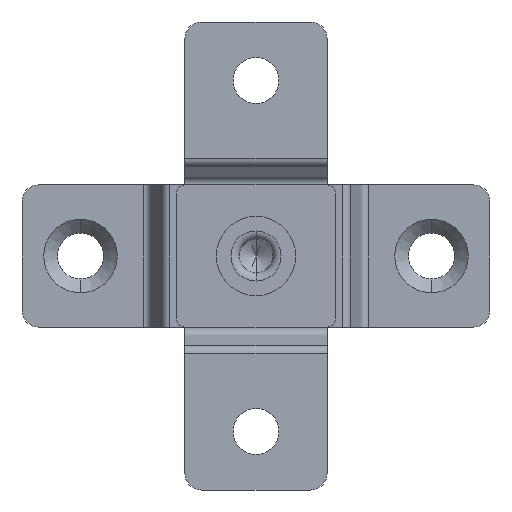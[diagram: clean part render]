
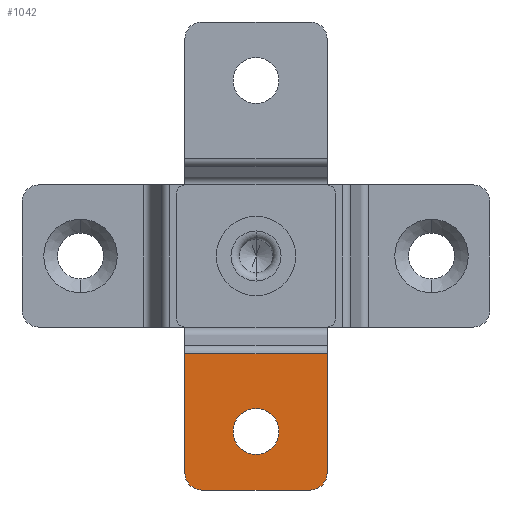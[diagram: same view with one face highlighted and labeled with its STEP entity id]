
A CAD part, front view. The second image highlights one B-rep face of the part: STEP entity #1042.
In plain terms, the highlighted planar face has unit normal (0, -1, 0) as drawn and (0, 1, 0) by its records, which use the part's own axes.
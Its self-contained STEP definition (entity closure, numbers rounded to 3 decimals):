
#59 = EDGE_CURVE ( 'NONE', #679, #2616, #628, .T. ) ;
#69 = AXIS2_PLACEMENT_3D ( 'NONE', #560, #3537, #864 ) ;
#125 = VERTEX_POINT ( 'NONE', #1061 ) ;
#248 = VECTOR ( 'NONE', #2091, 1000. ) ;
#250 = CARTESIAN_POINT ( 'NONE',  ( 21., 35.253, 0. ) ) ;
#316 = CARTESIAN_POINT ( 'NONE',  ( 28., 35.253, 8.5 ) ) ;
#389 = VERTEX_POINT ( 'NONE', #2499 ) ;
#464 = CARTESIAN_POINT ( 'NONE',  ( 28., 35.253, -8.5 ) ) ;
#484 = LINE ( 'NONE', #464, #3081 ) ;
#541 = DIRECTION ( 'NONE',  ( 0., 0., -1. ) ) ;
#560 = CARTESIAN_POINT ( 'NONE',  ( 26., 35.253, -6.5 ) ) ;
#563 = FACE_BOUND ( 'NONE', #697, .T. ) ;
#628 = CIRCLE ( 'NONE', #2304, 2. ) ;
#679 = VERTEX_POINT ( 'NONE', #1352 ) ;
#697 = EDGE_LOOP ( 'NONE', ( #1491, #2552 ) ) ;
#769 = EDGE_LOOP ( 'NONE', ( #2339, #3511, #2471, #2643, #2170, #1375 ) ) ;
#805 = DIRECTION ( 'NONE',  ( 0., 0., 1. ) ) ;
#816 = LINE ( 'NONE', #2580, #2087 ) ;
#845 = DIRECTION ( 'NONE',  ( 0., 1., 0. ) ) ;
#864 = DIRECTION ( 'NONE',  ( 0., 0., -1. ) ) ;
#887 = DIRECTION ( 'NONE',  ( 0., 1., 0. ) ) ;
#895 = VERTEX_POINT ( 'NONE', #2593 ) ;
#907 = PLANE ( 'NONE',  #1626 ) ;
#961 = VECTOR ( 'NONE', #541, 1000. ) ;
#1042 = ADVANCED_FACE ( 'NONE', ( #563, #2062 ), #907, .F. ) ;
#1061 = CARTESIAN_POINT ( 'NONE',  ( 28., 35.253, -6.5 ) ) ;
#1078 = VERTEX_POINT ( 'NONE', #3594 ) ;
#1248 = DIRECTION ( 'NONE',  ( 0., 0., -1. ) ) ;
#1352 = CARTESIAN_POINT ( 'NONE',  ( 26., 35.253, 8.5 ) ) ;
#1375 = ORIENTED_EDGE ( 'NONE', *, *, #59, .T. ) ;
#1384 = AXIS2_PLACEMENT_3D ( 'NONE', #250, #845, #805 ) ;
#1388 = DIRECTION ( 'NONE',  ( 0., 0., -1. ) ) ;
#1434 = CARTESIAN_POINT ( 'NONE',  ( 21., 35.253, 0. ) ) ;
#1476 = VERTEX_POINT ( 'NONE', #2036 ) ;
#1491 = ORIENTED_EDGE ( 'NONE', *, *, #2879, .F. ) ;
#1626 = AXIS2_PLACEMENT_3D ( 'NONE', #2077, #2691, #1248 ) ;
#1861 = EDGE_CURVE ( 'NONE', #2616, #125, #816, .T. ) ;
#1992 = DIRECTION ( 'NONE',  ( 0., 0., 1. ) ) ;
#2036 = CARTESIAN_POINT ( 'NONE',  ( 21., 35.253, 2.75 ) ) ;
#2049 = DIRECTION ( 'NONE',  ( 0., 0., -1. ) ) ;
#2057 = CIRCLE ( 'NONE', #1384, 2.75 ) ;
#2062 = FACE_OUTER_BOUND ( 'NONE', #769, .T. ) ;
#2077 = CARTESIAN_POINT ( 'NONE',  ( 28., 35.253, 8.5 ) ) ;
#2087 = VECTOR ( 'NONE', #2049, 1000. ) ;
#2091 = DIRECTION ( 'NONE',  ( -1., 0., 0. ) ) ;
#2170 = ORIENTED_EDGE ( 'NONE', *, *, #3431, .F. ) ;
#2253 = VERTEX_POINT ( 'NONE', #3755 ) ;
#2304 = AXIS2_PLACEMENT_3D ( 'NONE', #2854, #2876, #1388 ) ;
#2339 = ORIENTED_EDGE ( 'NONE', *, *, #1861, .T. ) ;
#2423 = CIRCLE ( 'NONE', #2927, 2.75 ) ;
#2471 = ORIENTED_EDGE ( 'NONE', *, *, #3121, .T. ) ;
#2499 = CARTESIAN_POINT ( 'NONE',  ( 21., 35.253, -2.75 ) ) ;
#2521 = CIRCLE ( 'NONE', #69, 2. ) ;
#2552 = ORIENTED_EDGE ( 'NONE', *, *, #2715, .F. ) ;
#2580 = CARTESIAN_POINT ( 'NONE',  ( 28., 35.253, 8.5 ) ) ;
#2593 = CARTESIAN_POINT ( 'NONE',  ( 11.709, 35.253, -8.5 ) ) ;
#2616 = VERTEX_POINT ( 'NONE', #3111 ) ;
#2643 = ORIENTED_EDGE ( 'NONE', *, *, #3326, .F. ) ;
#2691 = DIRECTION ( 'NONE',  ( 0., -1., 0. ) ) ;
#2715 = EDGE_CURVE ( 'NONE', #389, #1476, #2057, .T. ) ;
#2854 = CARTESIAN_POINT ( 'NONE',  ( 26., 35.253, 6.5 ) ) ;
#2876 = DIRECTION ( 'NONE',  ( 0., 1., 0. ) ) ;
#2879 = EDGE_CURVE ( 'NONE', #1476, #389, #2423, .T. ) ;
#2927 = AXIS2_PLACEMENT_3D ( 'NONE', #1434, #887, #1992 ) ;
#2950 = LINE ( 'NONE', #3787, #961 ) ;
#3081 = VECTOR ( 'NONE', #3751, 1000. ) ;
#3111 = CARTESIAN_POINT ( 'NONE',  ( 28., 35.253, 6.5 ) ) ;
#3121 = EDGE_CURVE ( 'NONE', #2253, #895, #484, .T. ) ;
#3326 = EDGE_CURVE ( 'NONE', #1078, #895, #2950, .T. ) ;
#3379 = EDGE_CURVE ( 'NONE', #125, #2253, #2521, .T. ) ;
#3431 = EDGE_CURVE ( 'NONE', #679, #1078, #3610, .T. ) ;
#3511 = ORIENTED_EDGE ( 'NONE', *, *, #3379, .T. ) ;
#3537 = DIRECTION ( 'NONE',  ( 0., 1., 0. ) ) ;
#3594 = CARTESIAN_POINT ( 'NONE',  ( 11.709, 35.253, 8.5 ) ) ;
#3610 = LINE ( 'NONE', #316, #248 ) ;
#3751 = DIRECTION ( 'NONE',  ( -1., 0., 0. ) ) ;
#3755 = CARTESIAN_POINT ( 'NONE',  ( 26., 35.253, -8.5 ) ) ;
#3787 = CARTESIAN_POINT ( 'NONE',  ( 11.709, 35.253, 8.5 ) ) ;
